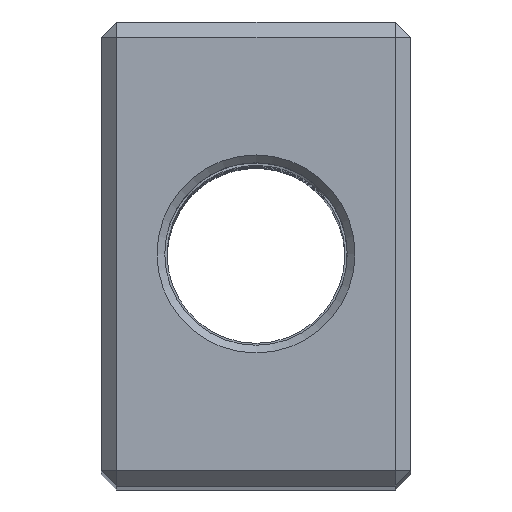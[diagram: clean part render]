
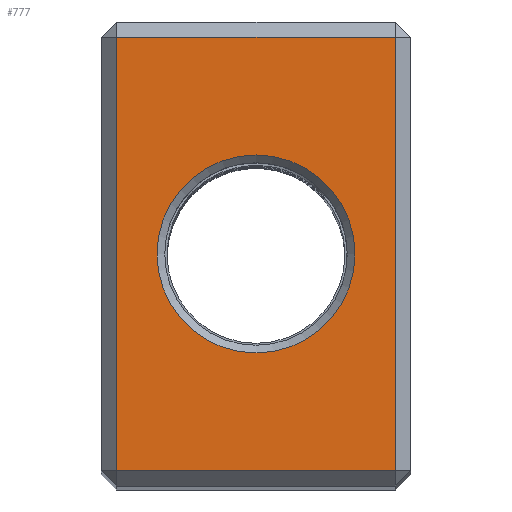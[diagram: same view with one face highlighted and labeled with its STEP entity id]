
A CAD part, top view. The second image highlights one B-rep face of the part: STEP entity #777.
In plain terms, the highlighted planar face has unit normal (0, 0, 1).
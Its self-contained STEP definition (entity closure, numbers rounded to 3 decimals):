
#41=FACE_BOUND('',#144,.T.);
#51=PLANE('',#868);
#92=FACE_OUTER_BOUND('',#143,.T.);
#143=EDGE_LOOP('',(#621,#622,#623,#624));
#144=EDGE_LOOP('',(#625));
#206=LINE('',#1466,#275);
#207=LINE('',#1468,#276);
#208=LINE('',#1470,#277);
#209=LINE('',#1471,#278);
#275=VECTOR('',#1013,10.);
#276=VECTOR('',#1014,10.);
#277=VECTOR('',#1015,10.);
#278=VECTOR('',#1016,10.);
#339=CIRCLE('',#865,6.4);
#393=VERTEX_POINT('',#1456);
#396=VERTEX_POINT('',#1464);
#397=VERTEX_POINT('',#1465);
#398=VERTEX_POINT('',#1467);
#399=VERTEX_POINT('',#1469);
#473=EDGE_CURVE('',#393,#393,#339,.T.);
#477=EDGE_CURVE('',#396,#397,#206,.T.);
#478=EDGE_CURVE('',#398,#396,#207,.T.);
#479=EDGE_CURVE('',#399,#398,#208,.T.);
#480=EDGE_CURVE('',#397,#399,#209,.T.);
#621=ORIENTED_EDGE('',*,*,#477,.F.);
#622=ORIENTED_EDGE('',*,*,#478,.F.);
#623=ORIENTED_EDGE('',*,*,#479,.F.);
#624=ORIENTED_EDGE('',*,*,#480,.F.);
#625=ORIENTED_EDGE('',*,*,#473,.F.);
#777=ADVANCED_FACE('',(#92,#41),#51,.T.);
#865=AXIS2_PLACEMENT_3D('',#1457,#1004,#1005);
#868=AXIS2_PLACEMENT_3D('',#1463,#1011,#1012);
#1004=DIRECTION('center_axis',(0.,0.,1.));
#1005=DIRECTION('ref_axis',(-1.,0.,0.));
#1011=DIRECTION('center_axis',(0.,0.,1.));
#1012=DIRECTION('ref_axis',(1.,0.,0.));
#1013=DIRECTION('',(1.,0.,0.));
#1014=DIRECTION('',(0.,1.,0.));
#1015=DIRECTION('',(-1.,0.,0.));
#1016=DIRECTION('',(0.,-1.,0.));
#1456=CARTESIAN_POINT('',(6.4,0.,75.));
#1457=CARTESIAN_POINT('Origin',(0.,0.,75.));
#1463=CARTESIAN_POINT('Origin',(0.,0.,75.));
#1464=CARTESIAN_POINT('',(-9.,14.,75.));
#1465=CARTESIAN_POINT('',(9.,14.,75.));
#1466=CARTESIAN_POINT('',(5.,14.,75.));
#1467=CARTESIAN_POINT('',(-9.,-14.,75.));
#1468=CARTESIAN_POINT('',(-9.,7.5,75.));
#1469=CARTESIAN_POINT('',(9.,-14.,75.));
#1470=CARTESIAN_POINT('',(-5.,-14.,75.));
#1471=CARTESIAN_POINT('',(9.,-7.5,75.));
